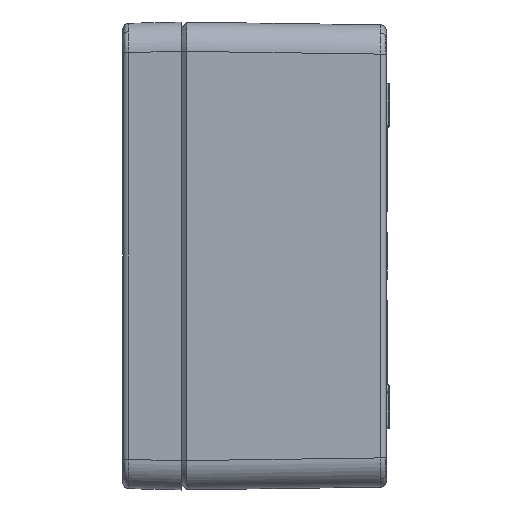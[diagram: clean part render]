
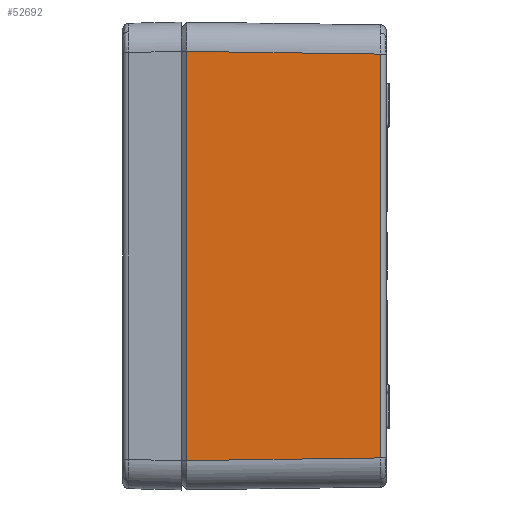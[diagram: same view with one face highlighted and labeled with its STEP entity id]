
A CAD part, left-side view. The second image highlights one B-rep face of the part: STEP entity #52692.
In plain terms, the highlighted planar face has unit normal (-1, -0.014, 0).
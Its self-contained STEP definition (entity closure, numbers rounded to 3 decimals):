
#146 = DIRECTION ( 'NONE',  ( -0.014, 1., 0. ) ) ;
#938 = DIRECTION ( 'NONE',  ( -0.014, 1., 0.014 ) ) ;
#7924 = DIRECTION ( 'NONE',  ( -1., -0.014, 0. ) ) ;
#9235 = VERTEX_POINT ( 'NONE', #48899 ) ;
#9707 = FACE_OUTER_BOUND ( 'NONE', #73146, .T. ) ;
#11362 = VERTEX_POINT ( 'NONE', #64305 ) ;
#11991 = DIRECTION ( 'NONE',  ( 0., 0., 1. ) ) ;
#12654 = VECTOR ( 'NONE', #938, 1000. ) ;
#12706 = CARTESIAN_POINT ( 'NONE',  ( -180.002, 2.139, -70.003 ) ) ;
#21254 = LINE ( 'NONE', #27881, #12654 ) ;
#21761 = ORIENTED_EDGE ( 'NONE', *, *, #49096, .T. ) ;
#24163 = CARTESIAN_POINT ( 'NONE',  ( -179.947, -1.8, -69.973 ) ) ;
#26415 = AXIS2_PLACEMENT_3D ( 'NONE', #72405, #7924, #146 ) ;
#27805 = EDGE_CURVE ( 'NONE', #88547, #78975, #112992, .T. ) ;
#27881 = CARTESIAN_POINT ( 'NONE',  ( -179.971, -0.081, 69.972 ) ) ;
#34900 = LINE ( 'NONE', #24163, #54207 ) ;
#41395 = DIRECTION ( 'NONE',  ( 0.014, -1., 0.014 ) ) ;
#47765 = VECTOR ( 'NONE', #11991, 1000. ) ;
#48899 = CARTESIAN_POINT ( 'NONE',  ( -179.028, -68.028, 69.029 ) ) ;
#49096 = EDGE_CURVE ( 'NONE', #9235, #11362, #21254, .T. ) ;
#50907 = VECTOR ( 'NONE', #41395, 1000. ) ;
#52069 = ORIENTED_EDGE ( 'NONE', *, *, #61193, .T. ) ;
#52692 = ADVANCED_FACE ( 'NONE', ( #9707 ), #117175, .T. ) ;
#53924 = CARTESIAN_POINT ( 'NONE',  ( -179.028, -68.028, -69.029 ) ) ;
#54207 = VECTOR ( 'NONE', #68944, 1000. ) ;
#61193 = EDGE_CURVE ( 'NONE', #11362, #88547, #34900, .T. ) ;
#63966 = ORIENTED_EDGE ( 'NONE', *, *, #27805, .T. ) ;
#64305 = CARTESIAN_POINT ( 'NONE',  ( -179.947, -1.8, 69.948 ) ) ;
#68944 = DIRECTION ( 'NONE',  ( 0., 0., -1. ) ) ;
#71233 = CARTESIAN_POINT ( 'NONE',  ( -179.947, -1.8, -69.948 ) ) ;
#72405 = CARTESIAN_POINT ( 'NONE',  ( -180., 2., -80. ) ) ;
#73146 = EDGE_LOOP ( 'NONE', ( #63966, #117147, #21761, #52069 ) ) ;
#78975 = VERTEX_POINT ( 'NONE', #53924 ) ;
#81883 = EDGE_CURVE ( 'NONE', #78975, #9235, #103908, .T. ) ;
#88547 = VERTEX_POINT ( 'NONE', #71233 ) ;
#103908 = LINE ( 'NONE', #113450, #47765 ) ;
#112992 = LINE ( 'NONE', #12706, #50907 ) ;
#113450 = CARTESIAN_POINT ( 'NONE',  ( -179.028, -68.028, 69.002 ) ) ;
#117147 = ORIENTED_EDGE ( 'NONE', *, *, #81883, .T. ) ;
#117175 = PLANE ( 'NONE',  #26415 ) ;
